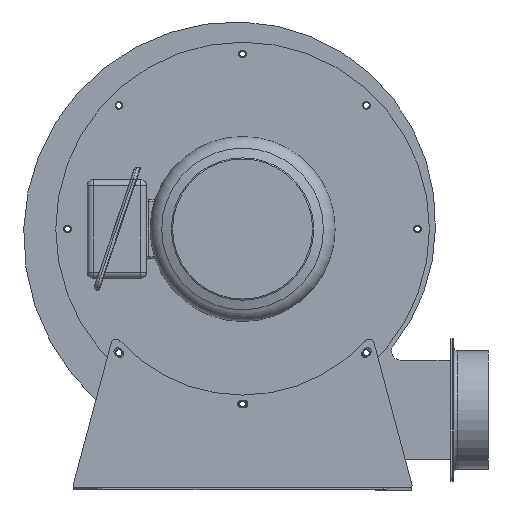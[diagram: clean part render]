
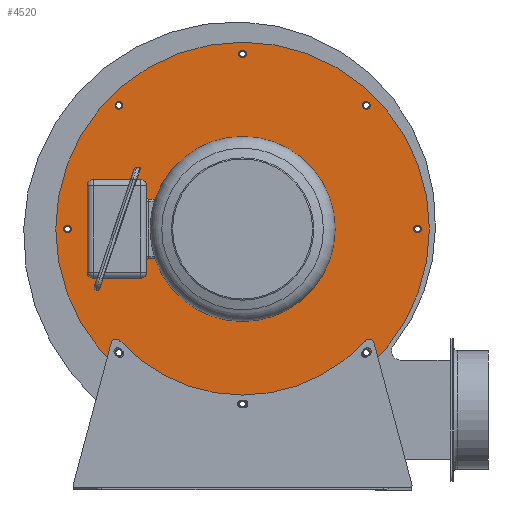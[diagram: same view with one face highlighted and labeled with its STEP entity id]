
A CAD part, left-side view. The second image highlights one B-rep face of the part: STEP entity #4520.
In plain terms, the highlighted planar face has unit normal (-1, 0, 0) as drawn and (1, 0, 0) by its records, which use the part's own axes.
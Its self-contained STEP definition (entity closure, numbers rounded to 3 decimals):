
#1210=ORIENTED_EDGE('',*,*,#2226,.T.);
#1211=ORIENTED_EDGE('',*,*,#2228,.T.);
#1212=ORIENTED_EDGE('',*,*,#2230,.T.);
#1213=ORIENTED_EDGE('',*,*,#2232,.T.);
#1214=ORIENTED_EDGE('',*,*,#2234,.T.);
#1215=ORIENTED_EDGE('',*,*,#2236,.T.);
#1216=ORIENTED_EDGE('',*,*,#2238,.T.);
#1217=ORIENTED_EDGE('',*,*,#2243,.T.);
#1218=ORIENTED_EDGE('',*,*,#2240,.T.);
#1219=ORIENTED_EDGE('',*,*,#2245,.F.);
#2226=EDGE_CURVE('',#2807,#2807,#3203,.T.);
#2228=EDGE_CURVE('',#2809,#2809,#3205,.T.);
#2230=EDGE_CURVE('',#2811,#2811,#3207,.T.);
#2232=EDGE_CURVE('',#2813,#2813,#3209,.T.);
#2234=EDGE_CURVE('',#2815,#2815,#3211,.T.);
#2236=EDGE_CURVE('',#2817,#2817,#3213,.T.);
#2238=EDGE_CURVE('',#2819,#2819,#3215,.T.);
#2240=EDGE_CURVE('',#2821,#2821,#3217,.T.);
#2243=EDGE_CURVE('',#2824,#2824,#3220,.T.);
#2245=EDGE_CURVE('',#2826,#2826,#3222,.T.);
#2807=VERTEX_POINT('',#7264);
#2809=VERTEX_POINT('',#7269);
#2811=VERTEX_POINT('',#7274);
#2813=VERTEX_POINT('',#7279);
#2815=VERTEX_POINT('',#7284);
#2817=VERTEX_POINT('',#7289);
#2819=VERTEX_POINT('',#7294);
#2821=VERTEX_POINT('',#7299);
#2824=VERTEX_POINT('',#7306);
#2826=VERTEX_POINT('',#7311);
#3203=CIRCLE('',#4989,3.25);
#3205=CIRCLE('',#4992,3.25);
#3207=CIRCLE('',#4995,3.25);
#3209=CIRCLE('',#4998,3.25);
#3211=CIRCLE('',#5001,3.25);
#3213=CIRCLE('',#5004,3.25);
#3215=CIRCLE('',#5007,3.25);
#3217=CIRCLE('',#5010,3.25);
#3220=CIRCLE('',#5014,15.);
#3222=CIRCLE('',#5017,157.5);
#3627=EDGE_LOOP('',(#1210));
#3628=EDGE_LOOP('',(#1211));
#3629=EDGE_LOOP('',(#1212));
#3630=EDGE_LOOP('',(#1213));
#3631=EDGE_LOOP('',(#1214));
#3632=EDGE_LOOP('',(#1215));
#3633=EDGE_LOOP('',(#1216));
#3634=EDGE_LOOP('',(#1217));
#3635=EDGE_LOOP('',(#1218));
#3636=EDGE_LOOP('',(#1219));
#4094=FACE_BOUND('',#3627,.T.);
#4095=FACE_BOUND('',#3628,.T.);
#4096=FACE_BOUND('',#3629,.T.);
#4097=FACE_BOUND('',#3630,.T.);
#4098=FACE_BOUND('',#3631,.T.);
#4099=FACE_BOUND('',#3632,.T.);
#4100=FACE_BOUND('',#3633,.T.);
#4101=FACE_BOUND('',#3634,.T.);
#4102=FACE_BOUND('',#3635,.T.);
#4103=FACE_BOUND('',#3636,.T.);
#4349=PLANE('',#5019);
#4520=ADVANCED_FACE('',(#4094,#4095,#4096,#4097,#4098,#4099,#4100,#4101,
#4102,#4103),#4349,.F.);
#4989=AXIS2_PLACEMENT_3D('',#7263,#5852,#5853);
#4992=AXIS2_PLACEMENT_3D('',#7268,#5858,#5859);
#4995=AXIS2_PLACEMENT_3D('',#7273,#5864,#5865);
#4998=AXIS2_PLACEMENT_3D('',#7278,#5870,#5871);
#5001=AXIS2_PLACEMENT_3D('',#7283,#5876,#5877);
#5004=AXIS2_PLACEMENT_3D('',#7288,#5882,#5883);
#5007=AXIS2_PLACEMENT_3D('',#7293,#5888,#5889);
#5010=AXIS2_PLACEMENT_3D('',#7298,#5894,#5895);
#5014=AXIS2_PLACEMENT_3D('',#7305,#5902,#5903);
#5017=AXIS2_PLACEMENT_3D('',#7310,#5908,#5909);
#5019=AXIS2_PLACEMENT_3D('',#7313,#5912,#5913);
#5852=DIRECTION('',(-1.,0.,0.));
#5853=DIRECTION('',(0.,-0.707,-0.707));
#5858=DIRECTION('',(-1.,0.,0.));
#5859=DIRECTION('',(0.,-1.,0.));
#5864=DIRECTION('',(-1.,0.,0.));
#5865=DIRECTION('',(0.,-0.707,0.707));
#5870=DIRECTION('',(-1.,0.,0.));
#5871=DIRECTION('',(0.,0.,1.));
#5876=DIRECTION('',(-1.,0.,0.));
#5877=DIRECTION('',(0.,0.707,0.707));
#5882=DIRECTION('',(-1.,0.,0.));
#5883=DIRECTION('',(0.,1.,0.));
#5888=DIRECTION('',(-1.,0.,0.));
#5889=DIRECTION('',(0.,0.707,-0.707));
#5894=DIRECTION('',(-1.,0.,0.));
#5895=DIRECTION('',(0.,0.,-1.));
#5902=DIRECTION('',(-1.,0.,0.));
#5903=DIRECTION('',(0.,1.,0.));
#5908=DIRECTION('',(-1.,0.,0.));
#5909=DIRECTION('',(0.,1.,0.));
#5912=DIRECTION('',(-1.,0.,0.));
#5913=DIRECTION('',(0.,-1.,0.));
#7263=CARTESIAN_POINT('',(0.,104.298,104.298));
#7264=CARTESIAN_POINT('',(0.,102.,102.));
#7268=CARTESIAN_POINT('',(0.,147.5,0.));
#7269=CARTESIAN_POINT('',(0.,144.25,0.));
#7273=CARTESIAN_POINT('',(0.,104.298,-104.298));
#7274=CARTESIAN_POINT('',(0.,102.,-102.));
#7278=CARTESIAN_POINT('',(0.,0.,-147.5));
#7279=CARTESIAN_POINT('',(0.,0.,-144.25));
#7283=CARTESIAN_POINT('',(0.,-104.298,-104.298));
#7284=CARTESIAN_POINT('',(0.,-102.,-102.));
#7288=CARTESIAN_POINT('',(0.,-147.5,0.));
#7289=CARTESIAN_POINT('',(0.,-144.25,0.));
#7293=CARTESIAN_POINT('',(0.,-104.298,104.298));
#7294=CARTESIAN_POINT('',(0.,-102.,102.));
#7298=CARTESIAN_POINT('',(0.,0.,147.5));
#7299=CARTESIAN_POINT('',(0.,0.,144.25));
#7305=CARTESIAN_POINT('',(0.,0.,0.));
#7306=CARTESIAN_POINT('',(0.,15.,0.));
#7310=CARTESIAN_POINT('',(0.,0.,0.));
#7311=CARTESIAN_POINT('',(0.,157.5,0.));
#7313=CARTESIAN_POINT('',(0.,0.,0.));
